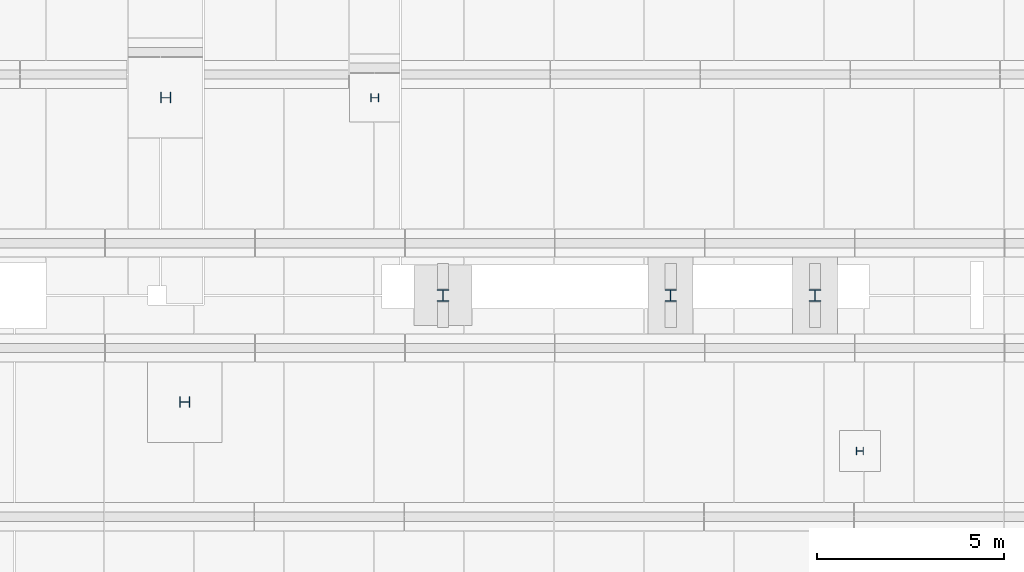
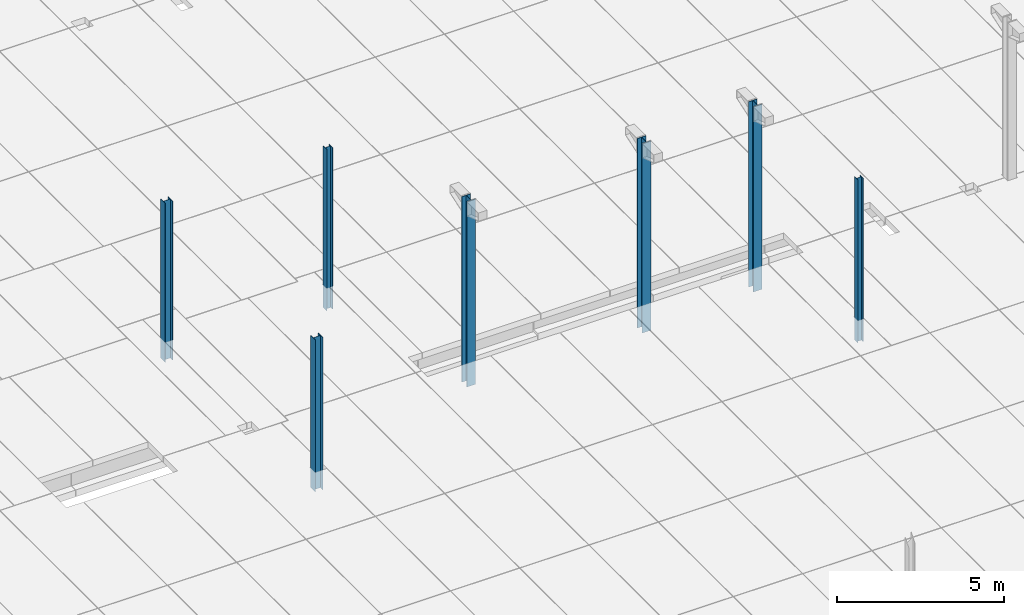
# One storey, part 23 of 59: 7 columns.
"""IFC2X3 building model written with IfcOpenShell, lengths in metres."""

from ifc_helpers import new_model, entity, si_unit, converted_unit, derived_unit, frame, origin, origin_with_axes, place, context, subcontext, project, spatial, polyline, outline, extrude, material, element, save


model = new_model("IFC2X3")

# Units and contexts
model_context = context("Model", 3, precision=1e-05, world=origin())
body_context = subcontext(model_context, "Body", "Model", "MODEL_VIEW")
ifc_project = project(units=[si_unit("LENGTHUNIT", "METRE"), si_unit("AREAUNIT", "SQUARE_METRE"), si_unit("VOLUMEUNIT", "CUBIC_METRE"), si_unit("MASSUNIT", "GRAM", prefix="KILO"), converted_unit("PLANEANGLEUNIT", "DEGREE", entity("IfcPlaneAngleMeasure", 0.0174532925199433), si_unit("PLANEANGLEUNIT", "RADIAN"), dimensions=[0, 0, 0, 0, 0, 0, 0]), derived_unit("THERMALTRANSMITTANCEUNIT", [(si_unit("POWERUNIT", "WATT"), 1), (si_unit("THERMODYNAMICTEMPERATUREUNIT", "KELVIN"), -1), (si_unit("LENGTHUNIT", "METRE"), -2)]), derived_unit("VOLUMETRICFLOWRATEUNIT", [(si_unit("LENGTHUNIT", "METRE"), 3), (converted_unit("TIMEUNIT", "hour", entity("IfcTimeMeasure", 3600.0), si_unit("TIMEUNIT", "SECOND"), dimensions=[0, 0, 1, 0, 0, 0, 0]), -1), (si_unit("LENGTHUNIT", "METRE"), -1)])], contexts=[model_context])

# Site, building, storey
site_placement = place(None, origin())
site = spatial("IfcSite", under=ifc_project, at=site_placement, Name="TWP_Speiseverteilzentrum SBW VZ II", CompositionType="ELEMENT")
building_placement = place(site_placement, origin())
building = spatial("IfcBuilding", under=site, at=building_placement, Name="Speiseverteilzentrum SBW VZ II", CompositionType="ELEMENT")
storey_placement = place(building_placement, frame((0.0, 0.0, 1.7307)))
storey = spatial("IfcBuildingStorey", under=building, at=storey_placement, Name="EG_Produktion_FFB", CompositionType="ELEMENT", Elevation=1.7307)

# Columns
ifc_material_1 = material(Name="S235")
column_1_placement = place(storey_placement, frame((53.6545815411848, 26.549939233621, -1.1)))
element("IfcColumn", 1, at=column_1_placement, inside=storey, material=ifc_material_1, Name="Stahlstütze", context=body_context, shape_type="SweptSolid", body=[
    extrude(outline(polyline([(0.19, 0.0), (0.19, 0.2), (0.18, 0.2), (0.18, 0.10325), (0.01, 0.10325), (0.01, 0.2), (0.0, 0.2), (0.0, 0.0), (0.01, 0.0), (0.01, 0.09675), (0.18, 0.09675), (0.18, 0.0), (0.19, 0.0)])), origin_with_axes(), (0.0, 0.0, 1.0), 5.98),
])
ifc_material_2 = material(Name="S235")
column_2_placement = place(storey_placement, frame((35.5997565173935, 27.8199286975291, -1.0)))
element("IfcColumn", 2, at=column_2_placement, inside=storey, material=ifc_material_2, Name="Stahlstütze", context=body_context, shape_type="SweptSolid", body=[
    extrude(outline(polyline([(0.013, 0.0), (0.013, 0.136), (0.257, 0.136), (0.257, 0.0), (0.27, 0.0), (0.27, 0.28), (0.257, 0.28), (0.257, 0.144), (0.013, 0.144), (0.013, 0.28), (0.0, 0.28), (0.0, 0.0), (0.013, 0.0)])), origin_with_axes(), (0.0, 0.0, 1.0), 5.57),
])
ifc_material_3 = material(Name="S235")
column_3_placement = place(storey_placement, frame((52.4000000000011, 30.6451031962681, -1.27)))
element("IfcColumn", 3, at=column_3_placement, inside=storey, material=ifc_material_3, Name="Stahlstütze", context=body_context, shape_type="SweptSolid", body=[
    extrude(outline(polyline([(0.0, 0.0), (0.3, 0.0), (0.3, 0.0155), (0.1545, 0.0155), (0.1545, 0.2945), (0.3, 0.2945), (0.3, 0.31), (0.0, 0.31), (0.0, 0.2945), (0.1455, 0.2945), (0.1455, 0.0155), (0.0, 0.0155), (0.0, 0.0)])), origin_with_axes(), (0.0, 0.0, 1.0), 6.7893),
])
ifc_material_4 = material(Name="S235")
column_4_placement = place(storey_placement, frame((40.6997040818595, 35.9698478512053, -1.1)))
element("IfcColumn", 4, at=column_4_placement, inside=storey, material=ifc_material_4, Name="Stahlstütze", context=body_context, shape_type="SweptSolid", body=[
    extrude(outline(polyline([(0.21, 0.0), (0.21, 0.22), (0.199, 0.22), (0.199, 0.1135), (0.011, 0.1135), (0.011, 0.22), (0.0, 0.22), (0.0, 0.0), (0.011, 0.0), (0.011, 0.1065), (0.199, 0.1065), (0.199, 0.0), (0.21, 0.0)])), origin_with_axes(), (0.0, 0.0, 1.0), 5.92),
])
ifc_material_5 = material(Name="S235")
column_5_placement = place(storey_placement, frame((42.4750000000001, 30.6451031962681, -1.27)))
element("IfcColumn", 5, at=column_5_placement, inside=storey, material=ifc_material_5, Name="Stahlstütze", context=body_context, shape_type="SweptSolid", body=[
    extrude(outline(polyline([(0.0, 0.0), (0.3, 0.0), (0.3, 0.0155), (0.1545, 0.0155), (0.1545, 0.2945), (0.3, 0.2945), (0.3, 0.31), (0.0, 0.31), (0.0, 0.2945), (0.1455, 0.2945), (0.1455, 0.0155), (0.0, 0.0155), (0.0, 0.0)])), origin_with_axes(), (0.0, 0.0, 1.0), 6.7893),
])
ifc_material_6 = material(Name="S235")
column_6_placement = place(storey_placement, frame((48.5500000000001, 30.6451031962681, -1.42)))
element("IfcColumn", 6, at=column_6_placement, inside=storey, material=ifc_material_6, Name="Stahlstütze", context=body_context, shape_type="SweptSolid", body=[
    extrude(outline(polyline([(0.0, 0.0), (0.3, 0.0), (0.3, 0.0155), (0.1545, 0.0155), (0.1545, 0.2945), (0.3, 0.2945), (0.3, 0.31), (0.0, 0.31), (0.0, 0.2945), (0.1455, 0.2945), (0.1455, 0.0155), (0.0, 0.0155), (0.0, 0.0)])), origin_with_axes(), (0.0, 0.0, 1.0), 6.9393),
])
ifc_material_7 = material(Name="S235")
column_7_placement = place(storey_placement, frame((35.0897583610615, 35.9398478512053, -1.0)))
element("IfcColumn", 7, at=column_7_placement, inside=storey, material=ifc_material_7, Name="Stahlstütze", context=body_context, shape_type="SweptSolid", body=[
    extrude(outline(polyline([(0.013, 0.0), (0.013, 0.136), (0.257, 0.136), (0.257, 0.0), (0.27, 0.0), (0.27, 0.28), (0.257, 0.28), (0.257, 0.144), (0.013, 0.144), (0.013, 0.28), (0.0, 0.28), (0.0, 0.0), (0.013, 0.0)])), origin_with_axes(), (0.0, 0.0, 1.0), 5.82),
])

save(model, "model.ifc")
